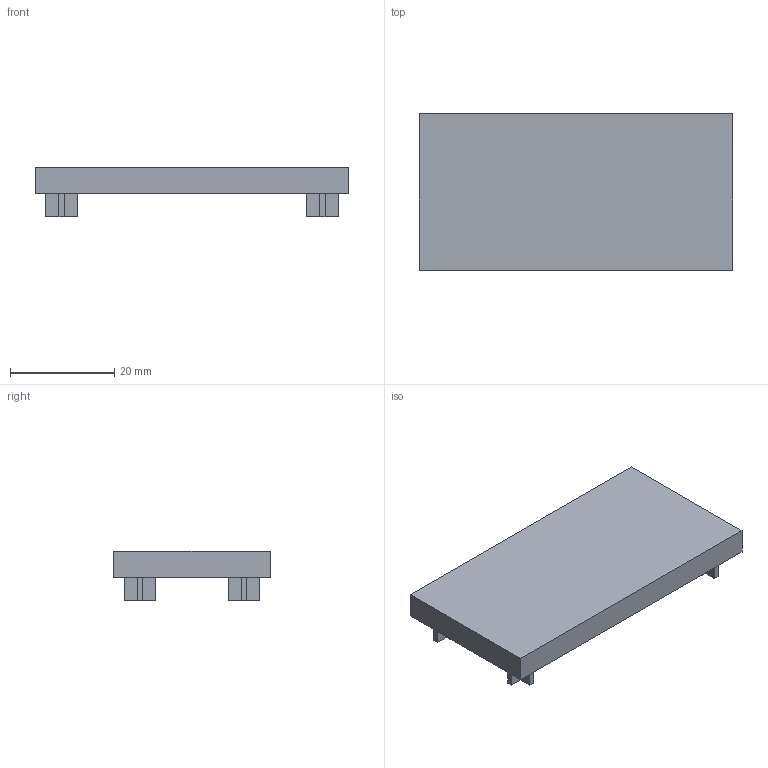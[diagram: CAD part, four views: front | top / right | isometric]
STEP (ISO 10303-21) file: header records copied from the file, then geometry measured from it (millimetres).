
FILE_DESCRIPTION(/* description */ ('Unknown'),/* implementation_level */ '2;1');
FILE_NAME(/* name */ 'CAP3060',/* time_stamp */ '2026-08-31T14:14:04+08:00',/* author */ ('Unknown'),/* organization */ ('Unknown'),/* preprocessor_version */ 'ST-DEVELOPER v16.7',/* originating_system */ 'DEX',/* authorisation */ $);
FILE_SCHEMA (('AUTOMOTIVE_DESIGN {1 0 10303 214 3 1 1}'));
Length unit declared in the file: millimetre
Products named in the file (1): CAP
Bounding box: 60 x 30 x 9.5 mm (x, y, z)
Volume: 2878 mm3; surface area: 6004 mm2
Topology: 1 solids, 1 shells, 63 faces, 168 edges, 112 vertices
Faces by surface type: plane 63
Entity records: 1952 total; most frequent: CARTESIAN_POINT 344, ORIENTED_EDGE 336, DIRECTION 296, EDGE_CURVE 168, LINE 168, VECTOR 168, VERTEX_POINT 112, EDGE_LOOP 68
